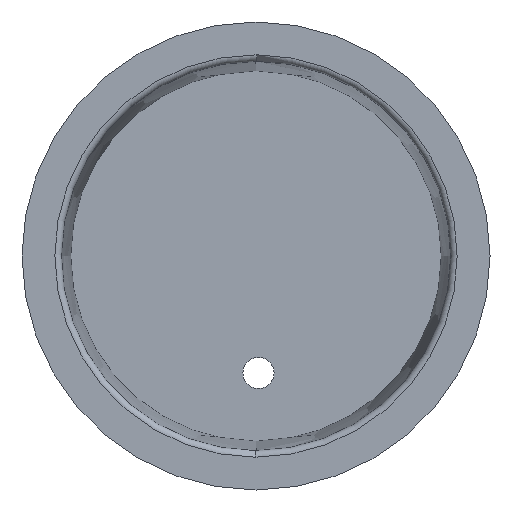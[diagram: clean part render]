
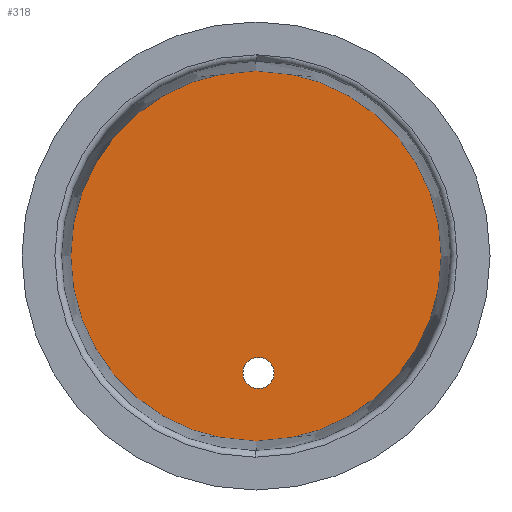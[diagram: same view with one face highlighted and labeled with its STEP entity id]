
A CAD part, left-side view. The second image highlights one B-rep face of the part: STEP entity #318.
In plain terms, the highlighted planar face has unit normal (-1, 0, 0).
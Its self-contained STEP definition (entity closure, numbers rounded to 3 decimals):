
#49=CARTESIAN_POINT('',(26.8,0.,0.));
#50=DIRECTION('',(1.,0.,0.));
#51=DIRECTION('',(0.,0.,1.));
#52=AXIS2_PLACEMENT_3D('',#49,#50,#51);
#54=CARTESIAN_POINT('',(26.8,0.,0.));
#55=DIRECTION('',(1.,0.,0.));
#56=DIRECTION('',(0.,0.,-1.));
#57=AXIS2_PLACEMENT_3D('',#54,#55,#56);
#59=CARTESIAN_POINT('',(26.8,-0.382,-18.));
#60=DIRECTION('',(-1.,0.,0.));
#61=DIRECTION('',(0.,0.,-1.));
#62=AXIS2_PLACEMENT_3D('',#59,#60,#61);
#64=CARTESIAN_POINT('',(26.8,-0.382,-18.));
#65=DIRECTION('',(-1.,0.,0.));
#66=DIRECTION('',(0.,0.,1.));
#67=AXIS2_PLACEMENT_3D('',#64,#65,#66);
#189=CARTESIAN_POINT('',(26.8,0.,28.5));
#190=VERTEX_POINT('',#189);
#191=CARTESIAN_POINT('',(26.8,0.,-28.5));
#192=VERTEX_POINT('',#191);
#203=CARTESIAN_POINT('',(26.8,-0.382,-20.4));
#204=CARTESIAN_POINT('',(26.8,-0.382,-15.6));
#205=VERTEX_POINT('',#203);
#206=VERTEX_POINT('',#204);
#303=CARTESIAN_POINT('',(26.8,0.,0.));
#304=DIRECTION('',(1.,0.,0.));
#305=DIRECTION('',(0.,0.,1.));
#306=AXIS2_PLACEMENT_3D('',#303,#304,#305);
#307=PLANE('',#306);
#308=ORIENTED_EDGE('',*,*,#297,.T.);
#309=ORIENTED_EDGE('',*,*,#246,.T.);
#310=EDGE_LOOP('',(#308,#309));
#311=FACE_OUTER_BOUND('',#310,.F.);
#313=ORIENTED_EDGE('',*,*,#312,.T.);
#315=ORIENTED_EDGE('',*,*,#314,.T.);
#316=EDGE_LOOP('',(#313,#315));
#317=FACE_BOUND('',#316,.F.);
#318=ADVANCED_FACE('',(#311,#317),#307,.F.);
#53=CIRCLE('',#52,28.5);
#58=CIRCLE('',#57,28.5);
#63=CIRCLE('',#62,2.4);
#68=CIRCLE('',#67,2.4);
#246=EDGE_CURVE('',#192,#190,#58,.T.);
#297=EDGE_CURVE('',#190,#192,#53,.T.);
#312=EDGE_CURVE('',#205,#206,#63,.T.);
#314=EDGE_CURVE('',#206,#205,#68,.T.);
